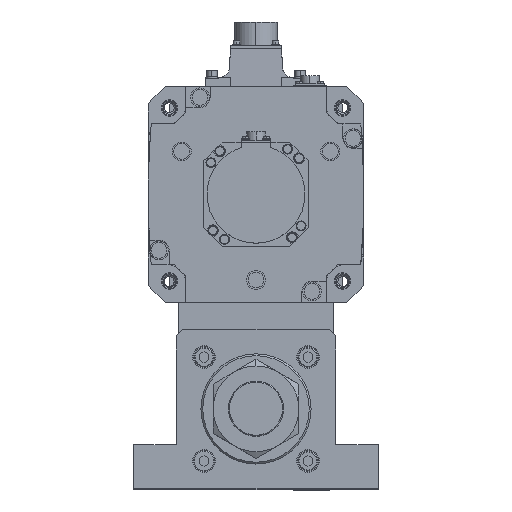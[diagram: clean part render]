
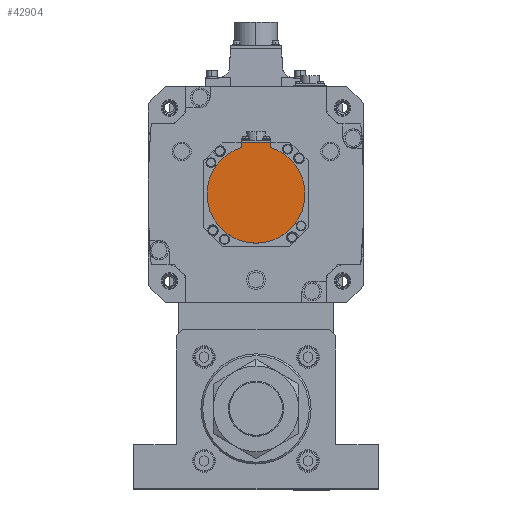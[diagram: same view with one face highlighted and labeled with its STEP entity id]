
A CAD part, top view. The second image highlights one B-rep face of the part: STEP entity #42904.
In plain terms, the highlighted planar face has unit normal (0, 0, 1) as drawn and (0, 0, -1) by its records, which use the part's own axes.
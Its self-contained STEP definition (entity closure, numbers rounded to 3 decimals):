
#862 = DIRECTION ( 'NONE',  ( 0., 0., 1. ) ) ;
#971 = EDGE_CURVE ( 'NONE', #16675, #40394, #22865, .T. ) ;
#1423 = CARTESIAN_POINT ( 'NONE',  ( 12., -1.249, -188. ) ) ;
#3500 = DIRECTION ( 'NONE',  ( 1., 0., 0. ) ) ;
#3556 = DIRECTION ( 'NONE',  ( 0., 0., 1. ) ) ;
#5649 = CARTESIAN_POINT ( 'NONE',  ( 12., -42.5, -188. ) ) ;
#5834 = DIRECTION ( 'NONE',  ( 0., 1., 0. ) ) ;
#6585 = PLANE ( 'NONE',  #15703 ) ;
#6768 = ORIENTED_EDGE ( 'NONE', *, *, #54736, .F. ) ;
#7261 = CARTESIAN_POINT ( 'NONE',  ( -12., -42.5, -188. ) ) ;
#10506 = ORIENTED_EDGE ( 'NONE', *, *, #31950, .T. ) ;
#14472 = AXIS2_PLACEMENT_3D ( 'NONE', #54571, #3556, #16797 ) ;
#14678 = EDGE_LOOP ( 'NONE', ( #34051, #32721, #35211, #46977, #6768, #10506 ) ) ;
#14792 = FACE_OUTER_BOUND ( 'NONE', #14678, .T. ) ;
#15643 = LINE ( 'NONE', #34578, #46890 ) ;
#15703 = AXIS2_PLACEMENT_3D ( 'NONE', #27494, #44648, #35863 ) ;
#16675 = VERTEX_POINT ( 'NONE', #53028 ) ;
#16797 = DIRECTION ( 'NONE',  ( 1., 0., 0. ) ) ;
#17182 = VERTEX_POINT ( 'NONE', #27070 ) ;
#18510 = VERTEX_POINT ( 'NONE', #5649 ) ;
#19296 = EDGE_CURVE ( 'NONE', #17182, #16675, #40612, .T. ) ;
#19588 = VECTOR ( 'NONE', #31098, 1000. ) ;
#20131 = AXIS2_PLACEMENT_3D ( 'NONE', #50912, #862, #34731 ) ;
#22865 = CIRCLE ( 'NONE', #20131, 40. ) ;
#26945 = CIRCLE ( 'NONE', #46235, 40. ) ;
#27070 = CARTESIAN_POINT ( 'NONE',  ( 40., 0., -188. ) ) ;
#27494 = CARTESIAN_POINT ( 'NONE',  ( 0., -1.249, -188. ) ) ;
#31002 = EDGE_CURVE ( 'NONE', #41393, #17182, #26945, .T. ) ;
#31098 = DIRECTION ( 'NONE',  ( 0., 1., 0. ) ) ;
#31950 = EDGE_CURVE ( 'NONE', #18510, #36316, #15643, .T. ) ;
#32721 = ORIENTED_EDGE ( 'NONE', *, *, #971, .F. ) ;
#34051 = ORIENTED_EDGE ( 'NONE', *, *, #40768, .T. ) ;
#34578 = CARTESIAN_POINT ( 'NONE',  ( 0., -42.5, -188. ) ) ;
#34731 = DIRECTION ( 'NONE',  ( 1., 0., 0. ) ) ;
#35211 = ORIENTED_EDGE ( 'NONE', *, *, #19296, .F. ) ;
#35863 = DIRECTION ( 'NONE',  ( 1., 0., 0. ) ) ;
#36316 = VERTEX_POINT ( 'NONE', #7261 ) ;
#38313 = CARTESIAN_POINT ( 'NONE',  ( 0., 0., -188. ) ) ;
#38695 = DIRECTION ( 'NONE',  ( 0., 0., 1. ) ) ;
#40394 = VERTEX_POINT ( 'NONE', #42464 ) ;
#40612 = CIRCLE ( 'NONE', #14472, 40. ) ;
#40768 = EDGE_CURVE ( 'NONE', #36316, #40394, #42229, .T. ) ;
#41393 = VERTEX_POINT ( 'NONE', #50379 ) ;
#42229 = LINE ( 'NONE', #48057, #19588 ) ;
#42464 = CARTESIAN_POINT ( 'NONE',  ( -12., -38.158, -188. ) ) ;
#42621 = DIRECTION ( 'NONE',  ( -1., 0., 0. ) ) ;
#42904 = ADVANCED_FACE ( 'NONE', ( #14792 ), #6585, .F. ) ;
#43929 = LINE ( 'NONE', #1423, #50578 ) ;
#44648 = DIRECTION ( 'NONE',  ( 0., 0., 1. ) ) ;
#46235 = AXIS2_PLACEMENT_3D ( 'NONE', #38313, #38695, #3500 ) ;
#46890 = VECTOR ( 'NONE', #42621, 1000. ) ;
#46977 = ORIENTED_EDGE ( 'NONE', *, *, #31002, .F. ) ;
#48057 = CARTESIAN_POINT ( 'NONE',  ( -12., -40.329, -188. ) ) ;
#50379 = CARTESIAN_POINT ( 'NONE',  ( 12., -38.158, -188. ) ) ;
#50578 = VECTOR ( 'NONE', #5834, 1000. ) ;
#50912 = CARTESIAN_POINT ( 'NONE',  ( 0., 0., -188. ) ) ;
#53028 = CARTESIAN_POINT ( 'NONE',  ( -40., 0., -188. ) ) ;
#54571 = CARTESIAN_POINT ( 'NONE',  ( 0., 0., -188. ) ) ;
#54736 = EDGE_CURVE ( 'NONE', #18510, #41393, #43929, .T. ) ;
